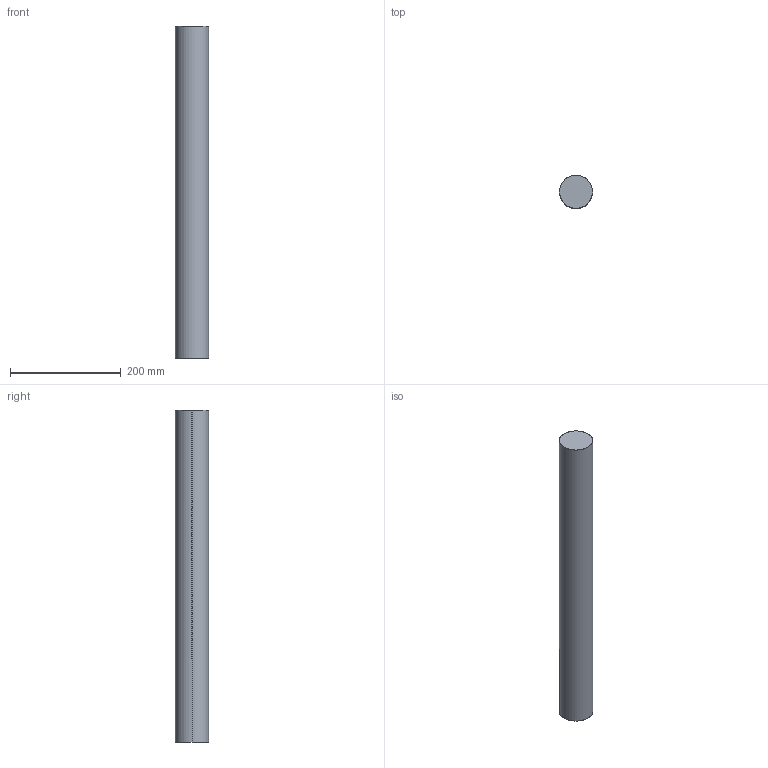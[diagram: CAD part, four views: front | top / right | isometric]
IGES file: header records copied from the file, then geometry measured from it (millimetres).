
Start section: SolidWorks IGES file using analytic representation for surfaces
Global section: file name: R:\Inventor\Kundmodeller Solidworks\Fästen\Mounting column Ø60x600 041J004336.IGS; native system: SolidWorks 2008; preprocessor: SolidWorks 2008; author: Johan; date: 091015.081529; units: millimetre
Bounding box: 60 x 60 x 600 mm (x, y, z)
Surface area: 118752.2 mm2 (no closed solid volume)
Topology: 0 solids, 0 shells, 4 faces, 136 edges, 136 vertices
Faces by surface type: revolution 2, bspline 2
